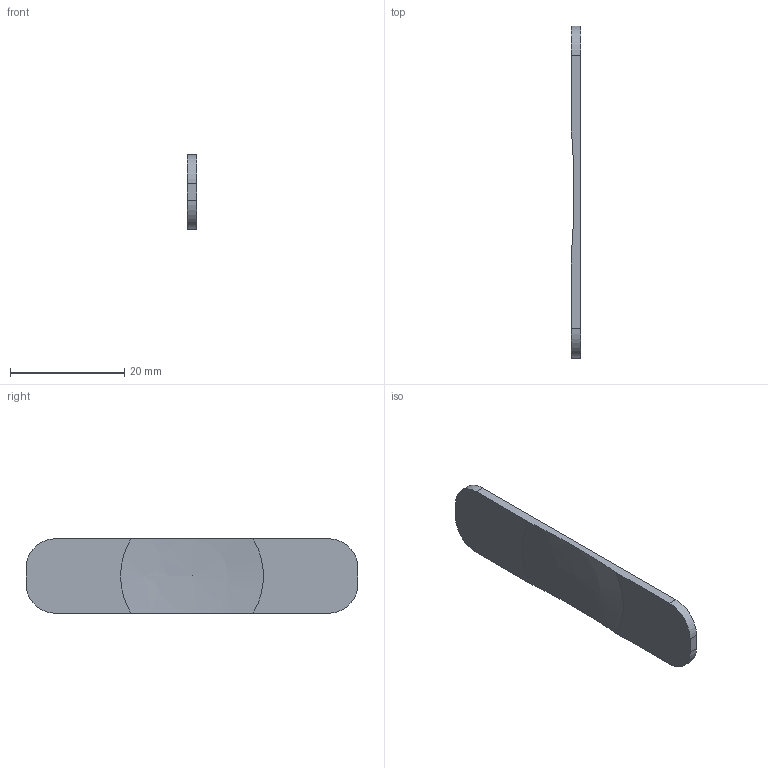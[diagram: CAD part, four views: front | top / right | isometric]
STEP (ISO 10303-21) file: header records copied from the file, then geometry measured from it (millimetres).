
FILE_DESCRIPTION(('Open CASCADE Model'),'2;1');
FILE_NAME('Open CASCADE Shape Model','2026-09-08T16:17:04',('Author'),( 'Open CASCADE'),'Open CASCADE STEP processor 7.7','Open CASCADE 7.7' ,'Unknown');
FILE_SCHEMA(('AUTOMOTIVE_DESIGN { 1 0 10303 214 1 1 1 1 }'));
Length unit declared in the file: millimetre
Products named in the file (1): Open CASCADE STEP translator 7.7 8
Bounding box: 1.6 x 58 x 13 mm (x, y, z)
Volume: 1057.7 mm3; surface area: 1664.7 mm2
Topology: 1 solids, 1 shells, 12 faces, 33 edges, 22 vertices
Faces by surface type: plane 7, cylinder 4, sphere 1
Entity records: 999 total; most frequent: CARTESIAN_POINT 359, DIRECTION 121, LINE 65, VECTOR 65, ORIENTED_EDGE 64, PCURVE 64, DEFINITIONAL_REPRESENTATION 64, EDGE_CURVE 32
